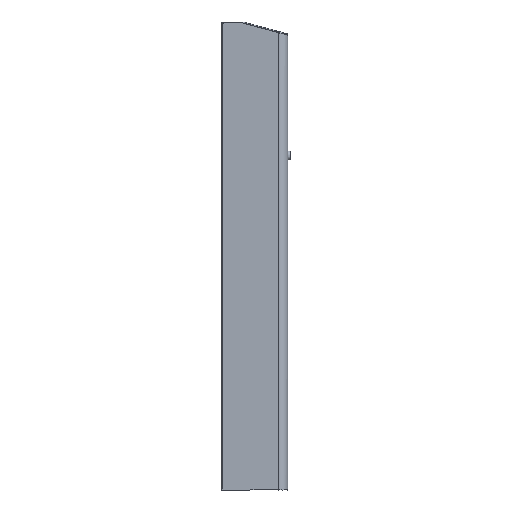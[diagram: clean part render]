
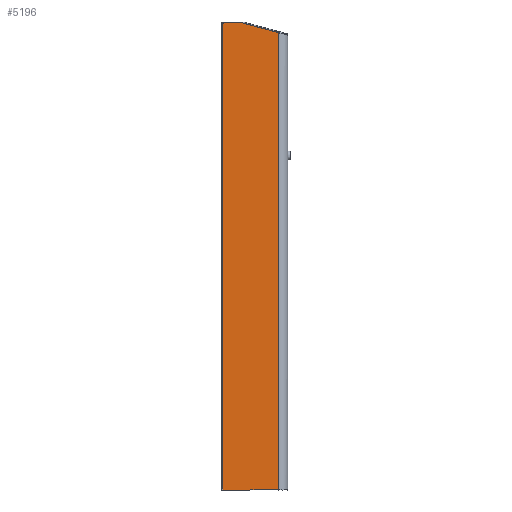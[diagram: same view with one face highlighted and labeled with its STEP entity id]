
A CAD part, left-side view. The second image highlights one B-rep face of the part: STEP entity #5196.
In plain terms, the highlighted planar face has unit normal (-1, 0, 0) as drawn and (1, 0, 0) by its records, which use the part's own axes.
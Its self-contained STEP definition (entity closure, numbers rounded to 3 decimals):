
#197=PLANE('',#5967);
#365=CIRCLE('',#5963,165.3);
#1524=ORIENTED_EDGE('',*,*,#2380,.T.);
#1525=ORIENTED_EDGE('',*,*,#2494,.F.);
#1526=ORIENTED_EDGE('',*,*,#2387,.T.);
#1527=ORIENTED_EDGE('',*,*,#2475,.T.);
#1528=ORIENTED_EDGE('',*,*,#2489,.T.);
#1529=ORIENTED_EDGE('',*,*,#2485,.T.);
#1530=ORIENTED_EDGE('',*,*,#2483,.F.);
#1531=ORIENTED_EDGE('',*,*,#2479,.F.);
#1532=ORIENTED_EDGE('',*,*,#2476,.F.);
#2380=EDGE_CURVE('',#2981,#2979,#3480,.T.);
#2387=EDGE_CURVE('',#2972,#2985,#3485,.T.);
#2475=EDGE_CURVE('',#2985,#3039,#3563,.T.);
#2476=EDGE_CURVE('',#2981,#3040,#3564,.F.);
#2479=EDGE_CURVE('',#3040,#3042,#3567,.T.);
#2483=EDGE_CURVE('',#3042,#3045,#3571,.T.);
#2485=EDGE_CURVE('',#3046,#3045,#3573,.T.);
#2489=EDGE_CURVE('',#3039,#3046,#365,.F.);
#2494=EDGE_CURVE('',#2972,#2979,#3580,.T.);
#2972=VERTEX_POINT('',#8817);
#2979=VERTEX_POINT('',#8834);
#2981=VERTEX_POINT('',#8840);
#2985=VERTEX_POINT('',#8849);
#3039=VERTEX_POINT('',#9140);
#3040=VERTEX_POINT('',#9170);
#3042=VERTEX_POINT('',#9176);
#3045=VERTEX_POINT('',#9184);
#3046=VERTEX_POINT('',#9188);
#3480=LINE('',#8839,#4004);
#3485=LINE('',#8853,#4009);
#3563=LINE('',#9167,#4087);
#3564=LINE('',#9169,#4088);
#3567=LINE('',#9175,#4091);
#3571=LINE('',#9183,#4095);
#3573=LINE('',#9187,#4097);
#3580=LINE('',#9205,#4104);
#4004=VECTOR('',#7097,1000.);
#4009=VECTOR('',#7110,1000.);
#4087=VECTOR('',#7262,1000.);
#4088=VECTOR('',#7265,1000.);
#4091=VECTOR('',#7270,1000.);
#4095=VECTOR('',#7276,1000.);
#4097=VECTOR('',#7280,1000.);
#4104=VECTOR('',#7301,1000.);
#4457=EDGE_LOOP('',(#1524,#1525,#1526,#1527,#1528,#1529,#1530,#1531,#1532));
#4785=FACE_BOUND('',#4457,.T.);
#5196=ADVANCED_FACE('',(#4785),#197,.F.);
#5963=AXIS2_PLACEMENT_3D('',#9194,#7287,#7288);
#5967=AXIS2_PLACEMENT_3D('',#9204,#7299,#7300);
#7097=DIRECTION('',(0.,0.,1.));
#7110=DIRECTION('',(0.,0.,-1.));
#7262=DIRECTION('',(0.,1.,0.));
#7265=DIRECTION('',(0.,-1.,0.));
#7270=DIRECTION('',(0.,0.,-1.));
#7276=DIRECTION('',(0.,-0.259,-0.966));
#7280=DIRECTION('',(0.,1.,0.));
#7287=DIRECTION('',(1.,0.,0.));
#7288=DIRECTION('',(0.,0.,1.));
#7299=DIRECTION('',(-1.,0.,0.));
#7300=DIRECTION('',(0.,0.,1.));
#7301=DIRECTION('',(0.,1.,0.));
#8817=CARTESIAN_POINT('',(0.,-491.5,-3.));
#8834=CARTESIAN_POINT('',(0.,493.155,-3.));
#8839=CARTESIAN_POINT('',(0.,493.155,-3.));
#8840=CARTESIAN_POINT('',(0.,493.155,-3.744));
#8849=CARTESIAN_POINT('',(0.,-491.5,-120.));
#8853=CARTESIAN_POINT('',(0.,-491.5,-3.));
#9140=CARTESIAN_POINT('',(0.,473.034,-120.));
#9167=CARTESIAN_POINT('',(0.,-491.5,-120.));
#9169=CARTESIAN_POINT('',(0.,-493.5,-3.744));
#9170=CARTESIAN_POINT('',(0.,493.5,-3.744));
#9175=CARTESIAN_POINT('',(0.,493.5,-3.));
#9176=CARTESIAN_POINT('',(0.,493.5,-45.));
#9183=CARTESIAN_POINT('',(0.,437.884,-252.563));
#9184=CARTESIAN_POINT('',(0.,473.546,-119.471));
#9187=CARTESIAN_POINT('',(0.,-493.5,-119.471));
#9188=CARTESIAN_POINT('',(0.,473.184,-119.471));
#9194=CARTESIAN_POINT('',(0.,632.1,-164.966));
#9204=CARTESIAN_POINT('',(0.,-491.5,-3.));
#9205=CARTESIAN_POINT('',(0.,-491.5,-3.));
